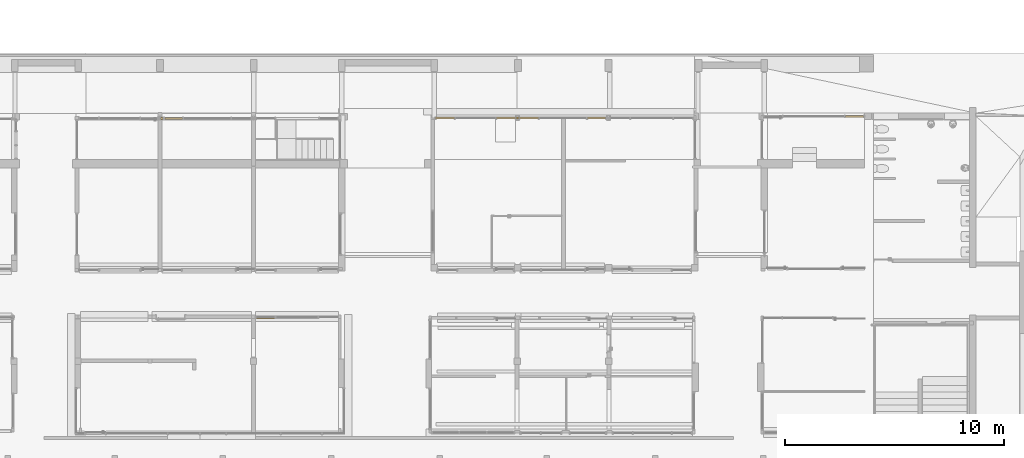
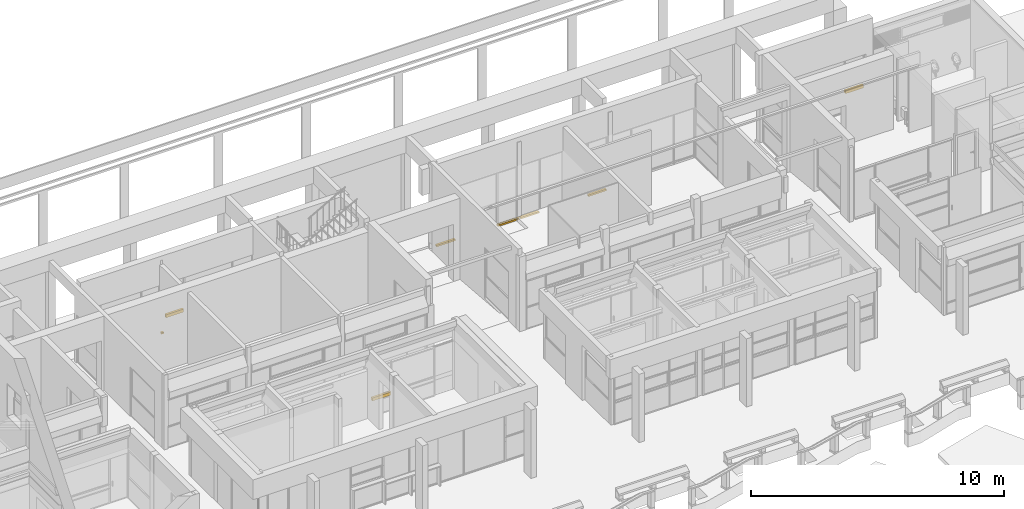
# One storey, part 110 of 117: 9 curtain walls, 4 elements without a shape of their own.
"""IFC4 building model written with IfcOpenShell, lengths in metres."""

from ifc_helpers import new_model, entity, si_unit, converted_unit, derived_unit, direction, frame, origin, place, context, subcontext, project, spatial, indexed_curve, outline, extrude, material, type_object, element, aggregate, save


model = new_model("IFC4")

# Units and contexts
model_context = context("Model", 3, precision=1e-05, world=origin(), true_north=direction((6.123031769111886e-17, 1.0)))
body_context = subcontext(model_context, "Body", "Model", "MODEL_VIEW")
ifc_project = project(units=[si_unit("LENGTHUNIT", "METRE"), si_unit("AREAUNIT", "SQUARE_METRE"), si_unit("VOLUMEUNIT", "CUBIC_METRE"), converted_unit("PLANEANGLEUNIT", "DEGREE", entity("IfcRatioMeasure", 0.017453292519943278), si_unit("PLANEANGLEUNIT", "RADIAN"), dimensions=[0, 0, 0, 0, 0, 0, 0]), si_unit("MASSUNIT", "GRAM", prefix="KILO"), derived_unit("MASSDENSITYUNIT", [(si_unit("MASSUNIT", "GRAM", prefix="KILO"), 1), (si_unit("LENGTHUNIT", "METRE"), -3)]), derived_unit("MOMENTOFINERTIAUNIT", [(si_unit("LENGTHUNIT", "METRE"), 4)]), si_unit("TIMEUNIT", "SECOND"), si_unit("FREQUENCYUNIT", "HERTZ"), si_unit("THERMODYNAMICTEMPERATUREUNIT", "DEGREE_CELSIUS"), derived_unit("THERMALTRANSMITTANCEUNIT", [(si_unit("MASSUNIT", "GRAM", prefix="KILO"), 1), (si_unit("THERMODYNAMICTEMPERATUREUNIT", "KELVIN"), -1), (si_unit("TIMEUNIT", "SECOND"), -3)]), derived_unit("VOLUMETRICFLOWRATEUNIT", [(si_unit("LENGTHUNIT", "METRE"), 3), (si_unit("TIMEUNIT", "SECOND"), -1)]), derived_unit("MASSFLOWRATEUNIT", [(si_unit("MASSUNIT", "GRAM", prefix="KILO"), 1), (si_unit("TIMEUNIT", "SECOND"), -1)]), derived_unit("ROTATIONALFREQUENCYUNIT", [(si_unit("TIMEUNIT", "SECOND"), -1)]), si_unit("ELECTRICCURRENTUNIT", "AMPERE"), si_unit("ELECTRICVOLTAGEUNIT", "VOLT"), si_unit("POWERUNIT", "WATT"), si_unit("FORCEUNIT", "NEWTON", prefix="KILO"), si_unit("ILLUMINANCEUNIT", "LUX"), si_unit("LUMINOUSFLUXUNIT", "LUMEN"), si_unit("LUMINOUSINTENSITYUNIT", "CANDELA"), derived_unit("USERDEFINED", [(si_unit("MASSUNIT", "GRAM", prefix="KILO"), -1), (si_unit("LENGTHUNIT", "METRE"), -2), (si_unit("TIMEUNIT", "SECOND"), 3), (si_unit("LUMINOUSFLUXUNIT", "LUMEN"), 1)]), derived_unit("SOUNDPOWERUNIT", [(si_unit("MASSUNIT", "GRAM", prefix="KILO"), 1), (si_unit("LENGTHUNIT", "METRE"), 2), (si_unit("TIMEUNIT", "SECOND"), -3)]), derived_unit("SOUNDPRESSUREUNIT", [(si_unit("MASSUNIT", "GRAM", prefix="KILO"), 1), (si_unit("LENGTHUNIT", "METRE"), -1), (si_unit("TIMEUNIT", "SECOND"), -2)]), derived_unit("LINEARVELOCITYUNIT", [(si_unit("LENGTHUNIT", "METRE"), 1), (si_unit("TIMEUNIT", "SECOND"), -1)]), si_unit("PRESSUREUNIT", "PASCAL"), derived_unit("USERDEFINED", [(si_unit("LENGTHUNIT", "METRE"), -2), (si_unit("MASSUNIT", "GRAM", prefix="KILO"), 1), (si_unit("TIMEUNIT", "SECOND"), -2)]), derived_unit("LINEARFORCEUNIT", [(si_unit("MASSUNIT", "GRAM", prefix="KILO"), 1), (si_unit("LENGTHUNIT", "METRE"), 1), (si_unit("TIMEUNIT", "SECOND"), -2), (si_unit("LENGTHUNIT", "METRE"), -1)]), derived_unit("PLANARFORCEUNIT", [(si_unit("MASSUNIT", "GRAM", prefix="KILO"), 1), (si_unit("LENGTHUNIT", "METRE"), 1), (si_unit("TIMEUNIT", "SECOND"), -2), (si_unit("LENGTHUNIT", "METRE"), -2)])], contexts=[model_context])

# Site, building, storey
site_placement = place(None, origin())
site = spatial("IfcSite", under=ifc_project, at=site_placement, Name="Superficie", CompositionType="ELEMENT")
building_placement = place(site_placement, origin())
building = spatial("IfcBuilding", under=site, at=building_placement, CompositionType="ELEMENT")
storey_placement = place(building_placement, origin())
storey = spatial("IfcBuildingStorey", under=building, at=storey_placement, Name="Nivel 0", CompositionType="ELEMENT", Elevation=0.0)

# Curtain walls
curtain_wall_type_1 = type_object("IfcCurtainWallType", Name="Muro cortina:Muro cortina - simple", PredefinedType="NOTDEFINED")
curtain_wall_1_placement = place(storey_placement, origin())
curtain_wall_1 = element("IfcCurtainWall", 1, at=curtain_wall_1_placement, inside=storey, type_object=curtain_wall_type_1, Name="Muro cortina:Muro cortina - simple", ObjectType="Muro cortina:Muro cortina - simple", PredefinedType="NOTDEFINED")
ifc_material = material(Name="<Unnamed>")
curtain_wall_type_2 = type_object("IfcCurtainWallType", Name="Muro básico:Por defecto - 10 cm", PredefinedType="NOTDEFINED")
curtain_wall_2_placement = place(storey_placement, frame((-6.358200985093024, 3.555829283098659, 0.7449999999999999), z_axis=(0.0, 0.0, 1.0), x_axis=(-1.0, 0.0, 0.0)))
curtain_wall_2 = element("IfcCurtainWall", 2, at=curtain_wall_2_placement, type_object=curtain_wall_type_2, material=ifc_material, Name="Muro básico:Por defecto - 10 cm", ObjectType="Muro básico:Por defecto - 10 cm", PredefinedType="NOTDEFINED", context=body_context, shape_type="SweptSolid", body=[
    extrude(outline(indexed_curve([(0.8500000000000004, 0.050000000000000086), (-1.6428722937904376e-16, 0.05), (1.6428722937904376e-16, -0.05), (0.8500000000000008, -0.04999999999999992), (0.8500000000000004, 0.050000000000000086)], self_intersect=False)), origin(), (0.0, 0.0, 1.0), 0.15000000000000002),
])
aggregate(curtain_wall_1, [curtain_wall_2])

curtain_wall_3_placement = place(storey_placement, origin())
curtain_wall_3 = element("IfcCurtainWall", 3, at=curtain_wall_3_placement, inside=storey, type_object=curtain_wall_type_1, Name="Muro cortina:Muro cortina - simple", ObjectType="Muro cortina:Muro cortina - simple", PredefinedType="NOTDEFINED")
curtain_wall_4_placement = place(storey_placement, frame((8.751552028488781, 12.654548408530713, -0.1874502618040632), z_axis=(0.0, 0.0, 1.0), x_axis=(-1.0, 0.0, 0.0)))
curtain_wall_4 = element("IfcCurtainWall", 4, at=curtain_wall_4_placement, type_object=curtain_wall_type_2, material=ifc_material, Name="Muro básico:Por defecto - 10 cm", ObjectType="Muro básico:Por defecto - 10 cm", PredefinedType="NOTDEFINED", context=body_context, shape_type="SweptSolid", body=[
    extrude(outline(indexed_curve([(0.8249999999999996, 0.04999999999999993), (-1.6002962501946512e-16, 0.04999999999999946), (1.6002962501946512e-16, -0.04999999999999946), (0.825, -0.04999999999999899), (0.8249999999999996, 0.04999999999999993)], self_intersect=False)), origin(), (0.0, 0.0, 1.0), 0.07597316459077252),
])
curtain_wall_5_placement = place(storey_placement, frame((5.676552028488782, 12.654548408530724, -0.1874502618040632), z_axis=(0.0, 0.0, 1.0), x_axis=(-1.0, 0.0, 0.0)))
curtain_wall_5 = element("IfcCurtainWall", 5, at=curtain_wall_5_placement, type_object=curtain_wall_type_2, material=ifc_material, Name="Muro básico:Por defecto - 10 cm", ObjectType="Muro básico:Por defecto - 10 cm", PredefinedType="NOTDEFINED", context=body_context, shape_type="SweptSolid", body=[
    extrude(outline(indexed_curve([(0.8500000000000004, 0.050000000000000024), (-1.6002962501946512e-16, 0.04999999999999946), (1.6002962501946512e-16, -0.04999999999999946), (0.8500000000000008, -0.049999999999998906), (0.8500000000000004, 0.050000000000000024)], self_intersect=False)), origin(), (0.0, 0.0, 1.0), 0.07597316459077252),
])
curtain_wall_6_placement = place(storey_placement, frame((4.776552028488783, 12.654548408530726, -0.1874502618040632), z_axis=(0.0, 0.0, 1.0), x_axis=(-1.0, 0.0, 0.0)))
curtain_wall_6 = element("IfcCurtainWall", 6, at=curtain_wall_6_placement, type_object=curtain_wall_type_2, material=ifc_material, Name="Muro básico:Por defecto - 10 cm", ObjectType="Muro básico:Por defecto - 10 cm", PredefinedType="NOTDEFINED", context=body_context, shape_type="SweptSolid", body=[
    extrude(outline(indexed_curve([(0.1000000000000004, 0.04999999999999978), (-1.6002962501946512e-16, 0.04999999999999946), (1.6002962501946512e-16, -0.04999999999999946), (0.1000000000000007, -0.04999999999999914), (0.1000000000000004, 0.04999999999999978)], self_intersect=False)), origin(), (0.0, 0.0, 1.0), 0.07597316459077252),
])
curtain_wall_7_placement = place(storey_placement, frame((4.626552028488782, 12.654548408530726, -0.1874502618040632), z_axis=(0.0, 0.0, 1.0), x_axis=(-1.0, 0.0, 0.0)))
curtain_wall_7 = element("IfcCurtainWall", 7, at=curtain_wall_7_placement, type_object=curtain_wall_type_2, material=ifc_material, Name="Muro básico:Por defecto - 10 cm", ObjectType="Muro básico:Por defecto - 10 cm", PredefinedType="NOTDEFINED", context=body_context, shape_type="SweptSolid", body=[
    extrude(outline(indexed_curve([(0.850000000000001, 0.050000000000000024), (-1.6002962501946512e-16, 0.04999999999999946), (1.6002962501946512e-16, -0.04999999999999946), (0.8500000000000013, -0.049999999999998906), (0.850000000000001, 0.050000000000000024)], self_intersect=False)), origin(), (0.0, 0.0, 1.0), 0.07597316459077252),
])
curtain_wall_8_placement = place(storey_placement, frame((1.8365520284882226, 12.654548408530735, -0.1874502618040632), z_axis=(0.0, 0.0, 1.0), x_axis=(-1.0, 0.0, 0.0)))
curtain_wall_8 = element("IfcCurtainWall", 8, at=curtain_wall_8_placement, type_object=curtain_wall_type_2, material=ifc_material, Name="Muro básico:Por defecto - 10 cm", ObjectType="Muro básico:Por defecto - 10 cm", PredefinedType="NOTDEFINED", context=body_context, shape_type="SweptSolid", body=[
    extrude(outline(indexed_curve([(0.8500000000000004, 0.04999999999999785), (-1.6002962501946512e-16, 0.04999999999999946), (1.6002962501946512e-16, -0.04999999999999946), (0.8500000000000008, -0.05000000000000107), (0.8500000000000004, 0.04999999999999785)], self_intersect=False)), origin(), (0.0, 0.0, 1.0), 0.07597316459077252),
])
aggregate(curtain_wall_3, [curtain_wall_4, curtain_wall_5, curtain_wall_6, curtain_wall_7, curtain_wall_8])

curtain_wall_9_placement = place(storey_placement, origin())
curtain_wall_9 = element("IfcCurtainWall", 9, at=curtain_wall_9_placement, inside=storey, type_object=curtain_wall_type_1, Name="Muro cortina:Muro cortina - simple", ObjectType="Muro cortina:Muro cortina - simple", PredefinedType="NOTDEFINED")
curtain_wall_10_placement = place(storey_placement, frame((-10.587388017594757, 12.640829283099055, 0.7250000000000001), z_axis=(0.0, 0.0, 1.0), x_axis=(-1.0, 0.0, 0.0)))
curtain_wall_10 = element("IfcCurtainWall", 10, at=curtain_wall_10_placement, type_object=curtain_wall_type_2, material=ifc_material, Name="Muro básico:Por defecto - 10 cm", ObjectType="Muro básico:Por defecto - 10 cm", PredefinedType="NOTDEFINED", context=body_context, shape_type="SweptSolid", body=[
    extrude(outline(indexed_curve([(0.8049999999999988, 0.04999999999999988), (-1.6002962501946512e-16, 0.04999999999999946), (1.6002962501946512e-16, -0.04999999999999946), (0.804999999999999, -0.049999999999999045), (0.8049999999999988, 0.04999999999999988)], self_intersect=False)), origin(), (0.0, 0.0, 1.0), 0.15000000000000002),
])
curtain_wall_11_placement = place(storey_placement, frame((-11.487388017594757, 12.640829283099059, 0.0), z_axis=(0.0, 0.0, 1.0), x_axis=(-1.0, 0.0, 0.0)))
curtain_wall_11 = element("IfcCurtainWall", 11, at=curtain_wall_11_placement, type_object=curtain_wall_type_2, material=ifc_material, Name="Muro básico:Por defecto - 10 cm", ObjectType="Muro básico:Por defecto - 10 cm", PredefinedType="NOTDEFINED", context=body_context, shape_type="SweptSolid", body=[
    extrude(outline(indexed_curve([(0.0999999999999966, 0.04999999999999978), (-1.6002962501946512e-16, 0.04999999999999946), (1.6002962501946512e-16, -0.04999999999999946), (0.09999999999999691, -0.04999999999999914), (0.0999999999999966, 0.04999999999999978)], self_intersect=False)), origin(), (0.0, 0.0, 1.0), 0.07597316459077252),
])
aggregate(curtain_wall_9, [curtain_wall_10, curtain_wall_11])

curtain_wall_12_placement = place(storey_placement, origin())
curtain_wall_12 = element("IfcCurtainWall", 12, at=curtain_wall_12_placement, inside=storey, type_object=curtain_wall_type_1, Name="Muro cortina:Muro cortina - simple", ObjectType="Muro cortina:Muro cortina - simple", PredefinedType="NOTDEFINED")
curtain_wall_13_placement = place(storey_placement, frame((19.71179901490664, 12.73454840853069, 0.6059731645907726)))
curtain_wall_13 = element("IfcCurtainWall", 13, at=curtain_wall_13_placement, type_object=curtain_wall_type_2, material=ifc_material, Name="Muro básico:Por defecto - 10 cm", ObjectType="Muro básico:Por defecto - 10 cm", PredefinedType="NOTDEFINED", context=body_context, shape_type="SweptSolid", body=[
    extrude(outline(indexed_curve([(0.8249999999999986, 0.04999999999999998), (-1.6265610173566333e-16, 0.04999999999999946), (1.6265610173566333e-16, -0.04999999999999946), (0.8249999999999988, -0.04999999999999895), (0.8249999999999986, 0.04999999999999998)], self_intersect=False)), origin(), (0.0, 0.0, 1.0), 0.15000000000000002),
])
aggregate(curtain_wall_12, [curtain_wall_13])

save(model, "model.ifc")
